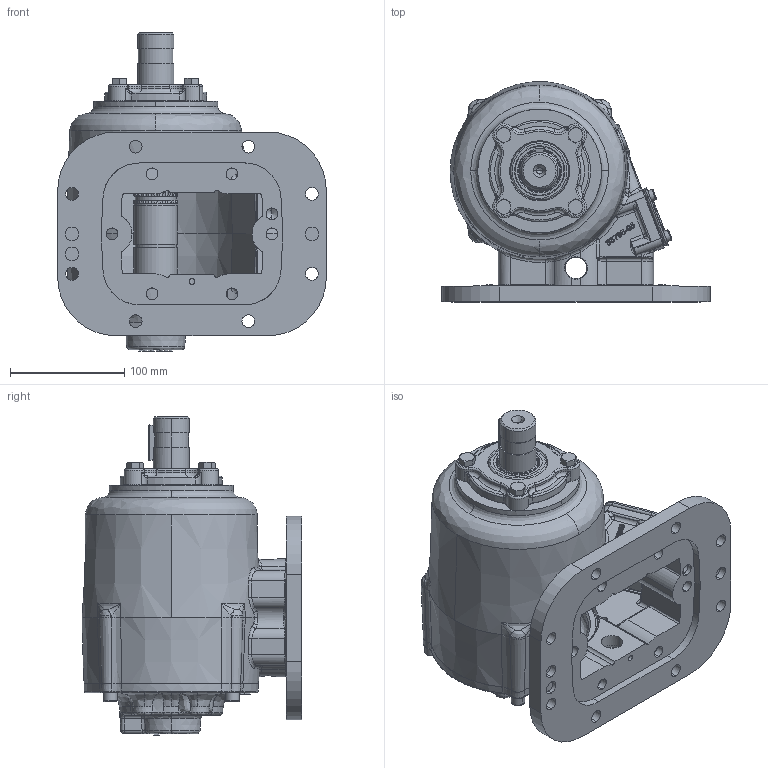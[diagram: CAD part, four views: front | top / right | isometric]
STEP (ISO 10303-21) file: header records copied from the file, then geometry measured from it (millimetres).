
FILE_DESCRIPTION (( 'STEP AP203' ), '1' );
FILE_NAME ('CS8S-XXXXX-E3BX.STEP', '2023-05-02T17:46:17', ( '' ), ( '' ), 'SwSTEP 2.0', 'SolidWorks 2021', '' );
FILE_SCHEMA (( 'CONFIG_CONTROL_DESIGN' ));
Length unit declared in the file: inch
Products named in the file (12): 16T41119; 26T01627_98481A235; 19T41118; 11T37790; 01t37075a; 15T36717; 19T41756; 15TA5220_Config1; 15T41683; 06t36892; 19T35237; CS8S-XXXXX-E3BX
Assembly tree (20 placements, depth 3):
  CS8S-XXXXX-E3BX
    01t37075a
    15T36717
    16T41119
    19T41118  x4
    19T35237  x4
    06t36892
    19T41756  x4
    15TA5220_Config1
      15T41683
      11T37790
    26T01627_98481A235
Bounding box: 234.7 x 192.11 x 278.52 mm (x, y, z)
Volume: 1648467.7 mm3; surface area: 444066.6 mm2
Topology: 19 solids, 19 shells, 2600 faces, 6647 edges, 4143 vertices
Faces by surface type: bspline 980, plane 600, cylinder 580, cone 324, torus 110, sphere 6
Entity records: 187143 total; most frequent: CARTESIAN_POINT 136284, ORIENTED_EDGE 12018, DIRECTION 7312, EDGE_CURVE 6009, VERTEX_POINT 3804, B_SPLINE_CURVE_WITH_KNOTS 2704, AXIS2_PLACEMENT_3D 2685, EDGE_LOOP 2559
